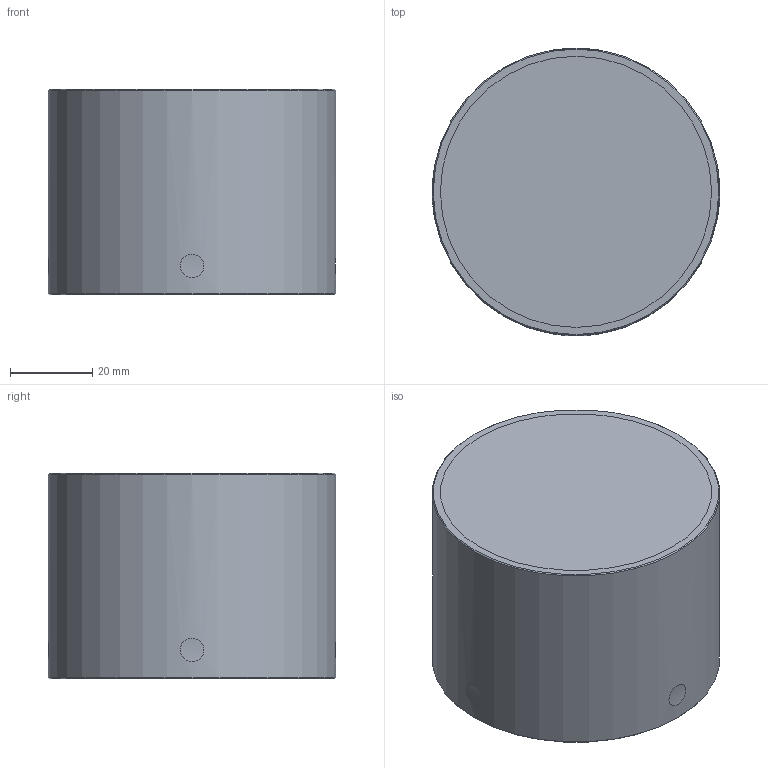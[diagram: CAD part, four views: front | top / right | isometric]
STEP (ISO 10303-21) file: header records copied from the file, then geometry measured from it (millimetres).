
FILE_DESCRIPTION(/* description */ (''),/* implementation_level */ '2;1');
FILE_NAME(/* name */ 'LA-3060-4557-A_UCT 50MM SPACER.stp',/* time_stamp */ '2026-03-17T14:43:58Z',/* author */ (''),/* organization */ (''),/* preprocessor_version */ 'ST-DEVELOPER v20',/* originating_system */ 'SIEMENS PLM Software NX2312.9162',/* authorisation */ '');
FILE_SCHEMA (('AUTOMOTIVE_DESIGN { 1 0 10303 214 3 1 1 1 }'));
Length unit declared in the file: millimetre
Products named in the file (1): LA-3060-4557_objects
Bounding box: 70 x 70 x 50 mm (x, y, z)
Volume: 192408.9 mm3; surface area: 18627.9 mm2
Topology: 1 solids, 1 shells, 11 faces, 15 edges, 11 vertices
Faces by surface type: cylinder 5, plane 4, cone 2
Full cylindrical faces by diameter (mm): 70 x1
Entity records: 373 total; most frequent: CARTESIAN_POINT 128, DIRECTION 36, EDGE_LOOP 20, ORIENTED_EDGE 20, AXIS2_PLACEMENT_3D 18, FACE_BOUND 14, ADVANCED_FACE 11, VERTEX_POINT 10
